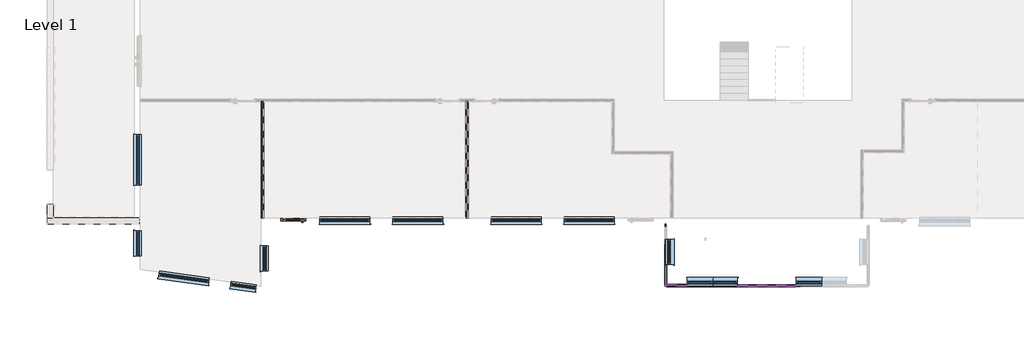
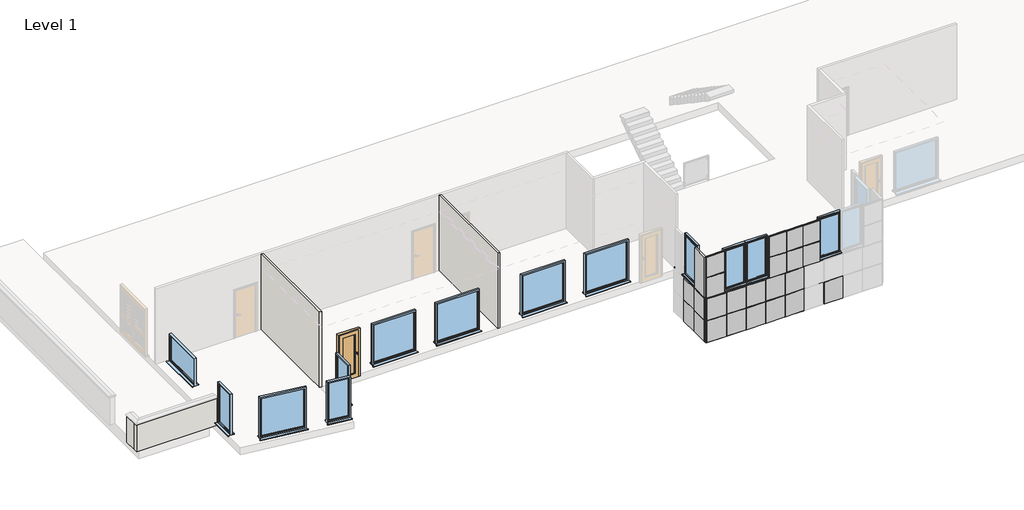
# One storey, part 1 of 10: 66 members, 24 plates, 13 windows, 4 walls, 1 door.
"""IFC4 building model written with IfcOpenShell, lengths in millimetres."""

from ifc_helpers import new_model, si_unit, frame, origin, place, context, project, spatial, polyline, outline, extrude, faceted_brep, transform, mapped, element, save
from components import doors_extsgl_1_910x2110mm_628282a2, rectangular_mullion_25x25mm_b4c38ae9, rectangular_mullion_25x25mm_5996006d, rectangular_mullion_25x25mm_003a9669, rectangular_mullion_25x25mm_920d8240, rectangular_mullion_25x25mm_7ee1a1d8, rectangular_mullion_25x25mm_82e2e498, rectangular_mullion_25x25mm_e35c5382, rectangular_mullion_25x25mm_6d395d07, rectangular_mullion_25x25mm_ba48c8dc, rectangular_mullion_25x25mm_5747d3e9, rectangular_mullion_25x25mm_b4b9a9ee, rectangular_mullion_25x25mm_675738ca, rectangular_mullion_25x25mm_1daffa3c, rectangular_mullion_25x25mm_6c57a8fc, rectangular_mullion_25x25mm_2d4ba261, rectangular_mullion_25x25mm_22961775, rectangular_mullion_25x25mm_fa73f4b8, rectangular_mullion_25x25mm_8c50469f, rectangular_mullion_25x25mm_42a5222e, rectangular_mullion_25x25mm_6f7df1f0, rectangular_mullion_25x25mm_822b7fe3, rectangular_mullion_25x25mm_ea8cc668, curtain_panels_solid_solid_panel_green_16f00973, curtain_panels_solid_solid_panel_green_053d9300, curtain_panels_solid_solid_panel_green_873f3444, curtain_panels_solid_solid_panel_green_c27fb083, curtain_panels_solid_solid_panel_green_c3e145d3, windows_sgl_plain_1810x1210mm_bf86ad2f, windows_sgl_plain_1810x1810mm_5434ce38, windows_sgl_plain_1810x1810mm_11d9b991, windows_sgl_plain_910x1810mm_bd75558e, windows_sgl_plain_910x1810mm_de3ea6c8, windows_sgl_plain_910x1810mm_eaa5caaf, windows_sgl_plain_910x1810mm_c05862ca

model = new_model("IFC4")

# Units and contexts
model_context = context("Model", 3, world=origin())
ifc_project = project(units=[si_unit("LENGTHUNIT", "METRE", prefix="MILLI")], contexts=[model_context])

# Site, building, storey
site = spatial("IfcSite", under=ifc_project)
building = spatial("IfcBuilding", under=site)
storey = spatial("IfcBuildingStorey", under=building, Name="Level 1", Elevation=3750.0)

# Door
placement = place(None, origin())
doors_extsgl_1_910x2110mm_shape = doors_extsgl_1_910x2110mm_628282a2(model_context)
element("IfcDoor", 1, ObjectType="Doors_ExtSgl_1 : 910x2110mm", at=placement, inside=storey, context=model_context, shape_type="MappedRepresentation", body=[
    mapped(doors_extsgl_1_910x2110mm_shape, transform((4105.7942367, -3367.5053409, 3750.0), x_axis=(-1.0, 0.0, 0.0), y_axis=(0.0, -1.0, 0.0), z_axis=(0.0, 0.0, 1.0))),
])

# Members
rectangular_mullion_25x25mm_shape = rectangular_mullion_25x25mm_b4c38ae9(model_context)
element("IfcMember", 2, ObjectType="Rectangular Mullion : 25x25mm", at=placement, inside=storey, context=model_context, shape_type="MappedRepresentation", body=[
    mapped(rectangular_mullion_25x25mm_shape, transform((17573.2942367, -4210.005341, 2135.0), x_axis=(0.0, -1.0, 0.0), y_axis=(-1.0, 0.0, 0.0), z_axis=(0.0, 0.0, -1.0))),
])
element("IfcMember", 3, ObjectType="Rectangular Mullion : 25x25mm", at=placement, inside=storey, context=model_context, shape_type="MappedRepresentation", body=[
    mapped(rectangular_mullion_25x25mm_shape, transform((17573.2942367, -4957.5053408, 2135.0), x_axis=(0.0, -1.0, 0.0), y_axis=(-1.0, 0.0, 0.0), z_axis=(0.0, 0.0, -1.0))),
])
element("IfcMember", 4, ObjectType="Rectangular Mullion : 25x25mm", at=placement, inside=storey, context=model_context, shape_type="MappedRepresentation", body=[
    mapped(rectangular_mullion_25x25mm_shape, transform((17573.2942367, -4210.005341, 3080.0), x_axis=(0.0, -1.0, 0.0), y_axis=(-1.0, 0.0, 0.0), z_axis=(0.0, 0.0, -1.0))),
])
element("IfcMember", 5, ObjectType="Rectangular Mullion : 25x25mm", at=placement, inside=storey, context=model_context, shape_type="MappedRepresentation", body=[
    mapped(rectangular_mullion_25x25mm_shape, transform((17573.2942367, -4957.5053408, 3080.0), x_axis=(0.0, -1.0, 0.0), y_axis=(-1.0, 0.0, 0.0), z_axis=(0.0, 0.0, -1.0))),
])
rectangular_mullion_25x25mm_2_shape = rectangular_mullion_25x25mm_5996006d(model_context)
element("IfcMember", 6, ObjectType="Rectangular Mullion : 25x25mm", at=placement, inside=storey, context=model_context, shape_type="MappedRepresentation", body=[
    mapped(rectangular_mullion_25x25mm_2_shape, transform((17573.2942367, -5717.5053409, 2135.0), x_axis=(0.0, -1.0, 0.0), y_axis=(-1.0, 0.0, 0.0), z_axis=(0.0, 0.0, -1.0))),
])
element("IfcMember", 7, ObjectType="Rectangular Mullion : 25x25mm", at=placement, inside=storey, context=model_context, shape_type="MappedRepresentation", body=[
    mapped(rectangular_mullion_25x25mm_2_shape, transform((17573.2942367, -5717.5053409, 3080.0), x_axis=(0.0, -1.0, 0.0), y_axis=(-1.0, 0.0, 0.0), z_axis=(0.0, 0.0, -1.0))),
])
rectangular_mullion_25x25mm_3_shape = rectangular_mullion_25x25mm_003a9669(model_context)
element("IfcMember", 8, ObjectType="Rectangular Mullion : 25x25mm", at=placement, inside=storey, context=model_context, shape_type="MappedRepresentation", body=[
    mapped(rectangular_mullion_25x25mm_3_shape, transform((17573.2942367, -4210.005341, 4050.0), x_axis=(0.0, 0.0, 1.0), y_axis=(-1.0, 0.0, 0.0), z_axis=(0.0, -1.0, 0.0))),
])
rectangular_mullion_25x25mm_4_shape = rectangular_mullion_25x25mm_920d8240(model_context)
element("IfcMember", 9, ObjectType="Rectangular Mullion : 25x25mm", at=placement, inside=storey, context=model_context, shape_type="MappedRepresentation", body=[
    mapped(rectangular_mullion_25x25mm_4_shape, transform((17573.2942367, -4957.5053408, 4050.0), x_axis=(0.0, 0.0, 1.0), y_axis=(-1.0, 0.0, 0.0), z_axis=(0.0, -1.0, 0.0))),
])
element("IfcMember", 10, ObjectType="Rectangular Mullion : 25x25mm", at=placement, inside=storey, context=model_context, shape_type="MappedRepresentation", body=[
    mapped(rectangular_mullion_25x25mm_4_shape, transform((17573.2942367, -4210.005341, 2110.0), x_axis=(0.0, 0.0, -1.0), y_axis=(-1.0, 0.0, 0.0), z_axis=(0.0, 1.0, 0.0))),
])
rectangular_mullion_25x25mm_5_shape = rectangular_mullion_25x25mm_7ee1a1d8(model_context)
element("IfcMember", 11, ObjectType="Rectangular Mullion : 25x25mm", at=placement, inside=storey, context=model_context, shape_type="MappedRepresentation", body=[
    mapped(rectangular_mullion_25x25mm_5_shape, transform((17573.2942367, -4957.5053408, 2110.0), x_axis=(0.0, 0.0, -1.0), y_axis=(-1.0, 0.0, 0.0), z_axis=(0.0, 1.0, 0.0))),
])
rectangular_mullion_25x25mm_6_shape = rectangular_mullion_25x25mm_82e2e498(model_context)
element("IfcMember", 12, ObjectType="Rectangular Mullion : 25x25mm", at=placement, inside=storey, context=model_context, shape_type="MappedRepresentation", body=[
    mapped(rectangular_mullion_25x25mm_6_shape, transform((17573.2942367, -4197.505341, 3080.0), x_axis=(0.0, 0.0, 1.0), y_axis=(-1.0, 0.0, 0.0), z_axis=(0.0, -1.0, 0.0))),
])
rectangular_mullion_25x25mm_7_shape = rectangular_mullion_25x25mm_e35c5382(model_context)
element("IfcMember", 13, ObjectType="Rectangular Mullion : 25x25mm", at=placement, inside=storey, context=model_context, shape_type="MappedRepresentation", body=[
    mapped(rectangular_mullion_25x25mm_7_shape, transform((17573.2942367, -4945.0053408, 3080.0), x_axis=(0.0, 0.0, 1.0), y_axis=(-1.0, 0.0, 0.0), z_axis=(0.0, -1.0, 0.0))),
])
element("IfcMember", 14, ObjectType="Rectangular Mullion : 25x25mm", at=placement, inside=storey, context=model_context, shape_type="MappedRepresentation", body=[
    mapped(rectangular_mullion_25x25mm_7_shape, transform((17573.2942367, -5692.5053409, 3080.0), x_axis=(0.0, 0.0, 1.0), y_axis=(-1.0, 0.0, 0.0), z_axis=(0.0, -1.0, 0.0))),
])
rectangular_mullion_25x25mm_8_shape = rectangular_mullion_25x25mm_6d395d07(model_context)
element("IfcMember", 15, ObjectType="Rectangular Mullion : 25x25mm", at=placement, inside=storey, context=model_context, shape_type="MappedRepresentation", body=[
    mapped(rectangular_mullion_25x25mm_8_shape, transform((20173.2942367, -5717.5053409, 5860.0), x_axis=(0.0, 0.0, 1.0), y_axis=(0.0, 1.0, 0.0), z_axis=(-1.0, 0.0, 0.0))),
])
element("IfcMember", 16, ObjectType="Rectangular Mullion : 25x25mm", at=placement, inside=storey, context=model_context, shape_type="MappedRepresentation", body=[
    mapped(rectangular_mullion_25x25mm_8_shape, transform((22288.2942367, -5717.5053409, 4025.0), x_axis=(0.0, 0.0, -1.0), y_axis=(0.0, 1.0, 0.0), z_axis=(1.0, 0.0, 0.0))),
])
element("IfcMember", 17, ObjectType="Rectangular Mullion : 25x25mm", at=placement, inside=storey, context=model_context, shape_type="MappedRepresentation", body=[
    mapped(rectangular_mullion_25x25mm_8_shape, transform((21579.1275699, -5717.5053409, 5860.0), x_axis=(0.0, 0.0, 1.0), y_axis=(0.0, 1.0, 0.0), z_axis=(-1.0, 0.0, 0.0))),
])
rectangular_mullion_25x25mm_9_shape = rectangular_mullion_25x25mm_ba48c8dc(model_context)
element("IfcMember", 18, ObjectType="Rectangular Mullion : 25x25mm", at=placement, inside=storey, context=model_context, shape_type="MappedRepresentation", body=[
    mapped(rectangular_mullion_25x25mm_9_shape, transform((20882.4609034, -5717.5053409, 5860.0), x_axis=(0.0, 0.0, 1.0), y_axis=(0.0, 1.0, 0.0), z_axis=(-1.0, 0.0, 0.0))),
])
element("IfcMember", 19, ObjectType="Rectangular Mullion : 25x25mm", at=placement, inside=storey, context=model_context, shape_type="MappedRepresentation", body=[
    mapped(rectangular_mullion_25x25mm_9_shape, transform((21579.1275699, -5717.5053409, 4025.0), x_axis=(0.0, 0.0, -1.0), y_axis=(0.0, 1.0, 0.0), z_axis=(1.0, 0.0, 0.0))),
])
element("IfcMember", 20, ObjectType="Rectangular Mullion : 25x25mm", at=placement, inside=storey, context=model_context, shape_type="MappedRepresentation", body=[
    mapped(rectangular_mullion_25x25mm_8_shape, transform((20882.4609034, -5717.5053409, 4025.0), x_axis=(0.0, 0.0, -1.0), y_axis=(0.0, 1.0, 0.0), z_axis=(1.0, 0.0, 0.0))),
])
rectangular_mullion_25x25mm_10_shape = rectangular_mullion_25x25mm_5747d3e9(model_context)
element("IfcMember", 21, ObjectType="Rectangular Mullion : 25x25mm", at=placement, inside=storey, context=model_context, shape_type="MappedRepresentation", body=[
    mapped(rectangular_mullion_25x25mm_10_shape, transform((21579.1275699, -5717.5053409, 4050.0), x_axis=(-1.0, 0.0, 0.0), y_axis=(0.0, 1.0, 0.0), z_axis=(0.0, 0.0, -1.0))),
])
element("IfcMember", 22, ObjectType="Rectangular Mullion : 25x25mm", at=placement, inside=storey, context=model_context, shape_type="MappedRepresentation", body=[
    mapped(rectangular_mullion_25x25mm_10_shape, transform((20882.4609034, -5717.5053409, 4050.0), x_axis=(-1.0, 0.0, 0.0), y_axis=(0.0, 1.0, 0.0), z_axis=(0.0, 0.0, -1.0))),
])
element("IfcMember", 23, ObjectType="Rectangular Mullion : 25x25mm", at=placement, inside=storey, context=model_context, shape_type="MappedRepresentation", body=[
    mapped(rectangular_mullion_25x25mm_10_shape, transform((21579.1275699, -5717.5053409, 4942.5), x_axis=(-1.0, 0.0, 0.0), y_axis=(0.0, 1.0, 0.0), z_axis=(0.0, 0.0, -1.0))),
])
element("IfcMember", 24, ObjectType="Rectangular Mullion : 25x25mm", at=placement, inside=storey, context=model_context, shape_type="MappedRepresentation", body=[
    mapped(rectangular_mullion_25x25mm_10_shape, transform((20882.4609034, -5717.5053409, 4942.5), x_axis=(-1.0, 0.0, 0.0), y_axis=(0.0, 1.0, 0.0), z_axis=(0.0, 0.0, -1.0))),
])
rectangular_mullion_25x25mm_11_shape = rectangular_mullion_25x25mm_b4b9a9ee(model_context)
element("IfcMember", 25, ObjectType="Rectangular Mullion : 25x25mm", at=placement, inside=storey, context=model_context, shape_type="MappedRepresentation", body=[
    mapped(rectangular_mullion_25x25mm_11_shape, transform((21591.6275699, -5717.5053409, 4942.5), x_axis=(0.0, 0.0, 1.0), y_axis=(0.0, 1.0, 0.0), z_axis=(-1.0, 0.0, 0.0))),
])
element("IfcMember", 26, ObjectType="Rectangular Mullion : 25x25mm", at=placement, inside=storey, context=model_context, shape_type="MappedRepresentation", body=[
    mapped(rectangular_mullion_25x25mm_11_shape, transform((20894.9609034, -5717.5053409, 4942.5), x_axis=(0.0, 0.0, 1.0), y_axis=(0.0, 1.0, 0.0), z_axis=(-1.0, 0.0, 0.0))),
])
element("IfcMember", 27, ObjectType="Rectangular Mullion : 25x25mm", at=placement, inside=storey, context=model_context, shape_type="MappedRepresentation", body=[
    mapped(rectangular_mullion_25x25mm_11_shape, transform((20198.2942367, -5717.5053409, 4942.5), x_axis=(0.0, 0.0, 1.0), y_axis=(0.0, 1.0, 0.0), z_axis=(-1.0, 0.0, 0.0))),
])
rectangular_mullion_25x25mm_12_shape = rectangular_mullion_25x25mm_675738ca(model_context)
element("IfcMember", 28, ObjectType="Rectangular Mullion : 25x25mm", at=placement, inside=storey, context=model_context, shape_type="MappedRepresentation", body=[
    mapped(rectangular_mullion_25x25mm_12_shape, transform((20173.2942367, -5717.5053409, 4050.0), x_axis=(-1.0, 0.0, 0.0), y_axis=(0.0, 1.0, 0.0), z_axis=(0.0, 0.0, -1.0))),
])
element("IfcMember", 29, ObjectType="Rectangular Mullion : 25x25mm", at=placement, inside=storey, context=model_context, shape_type="MappedRepresentation", body=[
    mapped(rectangular_mullion_25x25mm_12_shape, transform((22288.2942367, -5717.5053409, 5835.0), x_axis=(1.0, 0.0, 0.0), y_axis=(0.0, 1.0, 0.0), z_axis=(0.0, 0.0, 1.0))),
])
element("IfcMember", 30, ObjectType="Rectangular Mullion : 25x25mm", at=placement, inside=storey, context=model_context, shape_type="MappedRepresentation", body=[
    mapped(rectangular_mullion_25x25mm_12_shape, transform((20173.2942367, -5717.5053409, 4942.5), x_axis=(-1.0, 0.0, 0.0), y_axis=(0.0, 1.0, 0.0), z_axis=(0.0, 0.0, -1.0))),
])
rectangular_mullion_25x25mm_13_shape = rectangular_mullion_25x25mm_1daffa3c(model_context)
element("IfcMember", 31, ObjectType="Rectangular Mullion : 25x25mm", at=placement, inside=storey, context=model_context, shape_type="MappedRepresentation", body=[
    mapped(rectangular_mullion_25x25mm_13_shape, transform((17573.2942367, -5717.5053409, 5860.0), x_axis=(0.0, 0.0, 1.0), y_axis=(0.0, 1.0, 0.0), z_axis=(-1.0, 0.0, 0.0))),
])
element("IfcMember", 32, ObjectType="Rectangular Mullion : 25x25mm", at=placement, inside=storey, context=model_context, shape_type="MappedRepresentation", body=[
    mapped(rectangular_mullion_25x25mm_13_shape, transform((18348.2942367, -5717.5053409, 4025.0), x_axis=(0.0, 0.0, -1.0), y_axis=(0.0, 1.0, 0.0), z_axis=(1.0, 0.0, 0.0))),
])
rectangular_mullion_25x25mm_14_shape = rectangular_mullion_25x25mm_6c57a8fc(model_context)
element("IfcMember", 33, ObjectType="Rectangular Mullion : 25x25mm", at=placement, inside=storey, context=model_context, shape_type="MappedRepresentation", body=[
    mapped(rectangular_mullion_25x25mm_14_shape, transform((17598.2942367, -5717.5053409, 4942.5), x_axis=(0.0, 0.0, 1.0), y_axis=(0.0, 1.0, 0.0), z_axis=(-1.0, 0.0, 0.0))),
])
rectangular_mullion_25x25mm_15_shape = rectangular_mullion_25x25mm_2d4ba261(model_context)
element("IfcMember", 34, ObjectType="Rectangular Mullion : 25x25mm", at=placement, inside=storey, context=model_context, shape_type="MappedRepresentation", body=[
    mapped(rectangular_mullion_25x25mm_15_shape, transform((17573.2942367, -5717.5053409, 4050.0), x_axis=(-1.0, 0.0, 0.0), y_axis=(0.0, 1.0, 0.0), z_axis=(0.0, 0.0, -1.0))),
])
element("IfcMember", 35, ObjectType="Rectangular Mullion : 25x25mm", at=placement, inside=storey, context=model_context, shape_type="MappedRepresentation", body=[
    mapped(rectangular_mullion_25x25mm_15_shape, transform((18348.2942367, -5717.5053409, 5835.0), x_axis=(1.0, 0.0, 0.0), y_axis=(0.0, 1.0, 0.0), z_axis=(0.0, 0.0, 1.0))),
])
element("IfcMember", 36, ObjectType="Rectangular Mullion : 25x25mm", at=placement, inside=storey, context=model_context, shape_type="MappedRepresentation", body=[
    mapped(rectangular_mullion_25x25mm_15_shape, transform((17573.2942367, -5717.5053409, 4942.5), x_axis=(-1.0, 0.0, 0.0), y_axis=(0.0, 1.0, 0.0), z_axis=(0.0, 0.0, -1.0))),
])
element("IfcMember", 37, ObjectType="Rectangular Mullion : 25x25mm", at=placement, inside=storey, context=model_context, shape_type="MappedRepresentation", body=[
    mapped(rectangular_mullion_25x25mm_15_shape, transform((18348.2942367, -5717.5053409, 4942.5), x_axis=(1.0, 0.0, 0.0), y_axis=(0.0, 1.0, 0.0), z_axis=(0.0, 0.0, 1.0))),
])
rectangular_mullion_25x25mm_16_shape = rectangular_mullion_25x25mm_22961775(model_context)
element("IfcMember", 38, ObjectType="Rectangular Mullion : 25x25mm", at=placement, inside=storey, context=model_context, shape_type="MappedRepresentation", body=[
    mapped(rectangular_mullion_25x25mm_16_shape, transform((21627.4609033, -5717.5053409, 2110.0), x_axis=(-1.0, 0.0, 0.0), y_axis=(0.0, 1.0, 0.0), z_axis=(0.0, 0.0, -1.0))),
])
element("IfcMember", 39, ObjectType="Rectangular Mullion : 25x25mm", at=placement, inside=storey, context=model_context, shape_type="MappedRepresentation", body=[
    mapped(rectangular_mullion_25x25mm_16_shape, transform((20819.12757, -5717.5053409, 2110.0), x_axis=(-1.0, 0.0, 0.0), y_axis=(0.0, 1.0, 0.0), z_axis=(0.0, 0.0, -1.0))),
])
element("IfcMember", 40, ObjectType="Rectangular Mullion : 25x25mm", at=placement, inside=storey, context=model_context, shape_type="MappedRepresentation", body=[
    mapped(rectangular_mullion_25x25mm_16_shape, transform((20010.7942368, -5717.5053409, 2110.0), x_axis=(-1.0, 0.0, 0.0), y_axis=(0.0, 1.0, 0.0), z_axis=(0.0, 0.0, -1.0))),
])
element("IfcMember", 41, ObjectType="Rectangular Mullion : 25x25mm", at=placement, inside=storey, context=model_context, shape_type="MappedRepresentation", body=[
    mapped(rectangular_mullion_25x25mm_16_shape, transform((19202.4609035, -5717.5053409, 2110.0), x_axis=(-1.0, 0.0, 0.0), y_axis=(0.0, 1.0, 0.0), z_axis=(0.0, 0.0, -1.0))),
])
element("IfcMember", 42, ObjectType="Rectangular Mullion : 25x25mm", at=placement, inside=storey, context=model_context, shape_type="MappedRepresentation", body=[
    mapped(rectangular_mullion_25x25mm_16_shape, transform((18394.1275702, -5717.5053409, 2110.0), x_axis=(-1.0, 0.0, 0.0), y_axis=(0.0, 1.0, 0.0), z_axis=(0.0, 0.0, -1.0))),
])
element("IfcMember", 43, ObjectType="Rectangular Mullion : 25x25mm", at=placement, inside=storey, context=model_context, shape_type="MappedRepresentation", body=[
    mapped(rectangular_mullion_25x25mm_16_shape, transform((21627.4609033, -5717.5053409, 3067.5), x_axis=(-1.0, 0.0, 0.0), y_axis=(0.0, 1.0, 0.0), z_axis=(0.0, 0.0, -1.0))),
])
element("IfcMember", 44, ObjectType="Rectangular Mullion : 25x25mm", at=placement, inside=storey, context=model_context, shape_type="MappedRepresentation", body=[
    mapped(rectangular_mullion_25x25mm_16_shape, transform((20819.12757, -5717.5053409, 3067.5), x_axis=(-1.0, 0.0, 0.0), y_axis=(0.0, 1.0, 0.0), z_axis=(0.0, 0.0, -1.0))),
])
element("IfcMember", 45, ObjectType="Rectangular Mullion : 25x25mm", at=placement, inside=storey, context=model_context, shape_type="MappedRepresentation", body=[
    mapped(rectangular_mullion_25x25mm_16_shape, transform((20010.7942368, -5717.5053409, 3067.5), x_axis=(-1.0, 0.0, 0.0), y_axis=(0.0, 1.0, 0.0), z_axis=(0.0, 0.0, -1.0))),
])
element("IfcMember", 46, ObjectType="Rectangular Mullion : 25x25mm", at=placement, inside=storey, context=model_context, shape_type="MappedRepresentation", body=[
    mapped(rectangular_mullion_25x25mm_16_shape, transform((19202.4609035, -5717.5053409, 3067.5), x_axis=(-1.0, 0.0, 0.0), y_axis=(0.0, 1.0, 0.0), z_axis=(0.0, 0.0, -1.0))),
])
element("IfcMember", 47, ObjectType="Rectangular Mullion : 25x25mm", at=placement, inside=storey, context=model_context, shape_type="MappedRepresentation", body=[
    mapped(rectangular_mullion_25x25mm_16_shape, transform((18394.1275702, -5717.5053409, 3067.5), x_axis=(-1.0, 0.0, 0.0), y_axis=(0.0, 1.0, 0.0), z_axis=(0.0, 0.0, -1.0))),
])
rectangular_mullion_25x25mm_17_shape = rectangular_mullion_25x25mm_fa73f4b8(model_context)
element("IfcMember", 48, ObjectType="Rectangular Mullion : 25x25mm", at=placement, inside=storey, context=model_context, shape_type="MappedRepresentation", body=[
    mapped(rectangular_mullion_25x25mm_17_shape, transform((17573.2942367, -5717.5053409, 2110.0), x_axis=(-1.0, 0.0, 0.0), y_axis=(0.0, 1.0, 0.0), z_axis=(0.0, 0.0, -1.0))),
])
element("IfcMember", 49, ObjectType="Rectangular Mullion : 25x25mm", at=placement, inside=storey, context=model_context, shape_type="MappedRepresentation", body=[
    mapped(rectangular_mullion_25x25mm_17_shape, transform((17573.2942367, -5717.5053409, 3067.5), x_axis=(-1.0, 0.0, 0.0), y_axis=(0.0, 1.0, 0.0), z_axis=(0.0, 0.0, -1.0))),
])
rectangular_mullion_25x25mm_18_shape = rectangular_mullion_25x25mm_8c50469f(model_context)
element("IfcMember", 50, ObjectType="Rectangular Mullion : 25x25mm", at=placement, inside=storey, context=model_context, shape_type="MappedRepresentation", body=[
    mapped(rectangular_mullion_25x25mm_18_shape, transform((21627.4609033, -5717.5053409, 4050.0), x_axis=(0.0, 0.0, 1.0), y_axis=(0.0, 1.0, 0.0), z_axis=(-1.0, 0.0, 0.0))),
])
element("IfcMember", 51, ObjectType="Rectangular Mullion : 25x25mm", at=placement, inside=storey, context=model_context, shape_type="MappedRepresentation", body=[
    mapped(rectangular_mullion_25x25mm_18_shape, transform((20819.12757, -5717.5053409, 4050.0), x_axis=(0.0, 0.0, 1.0), y_axis=(0.0, 1.0, 0.0), z_axis=(-1.0, 0.0, 0.0))),
])
element("IfcMember", 52, ObjectType="Rectangular Mullion : 25x25mm", at=placement, inside=storey, context=model_context, shape_type="MappedRepresentation", body=[
    mapped(rectangular_mullion_25x25mm_18_shape, transform((20010.7942368, -5717.5053409, 4050.0), x_axis=(0.0, 0.0, 1.0), y_axis=(0.0, 1.0, 0.0), z_axis=(-1.0, 0.0, 0.0))),
])
element("IfcMember", 53, ObjectType="Rectangular Mullion : 25x25mm", at=placement, inside=storey, context=model_context, shape_type="MappedRepresentation", body=[
    mapped(rectangular_mullion_25x25mm_18_shape, transform((19202.4609035, -5717.5053409, 4050.0), x_axis=(0.0, 0.0, 1.0), y_axis=(0.0, 1.0, 0.0), z_axis=(-1.0, 0.0, 0.0))),
])
element("IfcMember", 54, ObjectType="Rectangular Mullion : 25x25mm", at=placement, inside=storey, context=model_context, shape_type="MappedRepresentation", body=[
    mapped(rectangular_mullion_25x25mm_18_shape, transform((18394.1275702, -5717.5053409, 4050.0), x_axis=(0.0, 0.0, 1.0), y_axis=(0.0, 1.0, 0.0), z_axis=(-1.0, 0.0, 0.0))),
])
element("IfcMember", 55, ObjectType="Rectangular Mullion : 25x25mm", at=placement, inside=storey, context=model_context, shape_type="MappedRepresentation", body=[
    mapped(rectangular_mullion_25x25mm_18_shape, transform((21627.4609033, -5717.5053409, 2085.0), x_axis=(0.0, 0.0, -1.0), y_axis=(0.0, 1.0, 0.0), z_axis=(1.0, 0.0, 0.0))),
])
element("IfcMember", 56, ObjectType="Rectangular Mullion : 25x25mm", at=placement, inside=storey, context=model_context, shape_type="MappedRepresentation", body=[
    mapped(rectangular_mullion_25x25mm_18_shape, transform((20819.12757, -5717.5053409, 2085.0), x_axis=(0.0, 0.0, -1.0), y_axis=(0.0, 1.0, 0.0), z_axis=(1.0, 0.0, 0.0))),
])
element("IfcMember", 57, ObjectType="Rectangular Mullion : 25x25mm", at=placement, inside=storey, context=model_context, shape_type="MappedRepresentation", body=[
    mapped(rectangular_mullion_25x25mm_18_shape, transform((20010.7942368, -5717.5053409, 2085.0), x_axis=(0.0, 0.0, -1.0), y_axis=(0.0, 1.0, 0.0), z_axis=(1.0, 0.0, 0.0))),
])
element("IfcMember", 58, ObjectType="Rectangular Mullion : 25x25mm", at=placement, inside=storey, context=model_context, shape_type="MappedRepresentation", body=[
    mapped(rectangular_mullion_25x25mm_18_shape, transform((19202.4609035, -5717.5053409, 2085.0), x_axis=(0.0, 0.0, -1.0), y_axis=(0.0, 1.0, 0.0), z_axis=(1.0, 0.0, 0.0))),
])
rectangular_mullion_25x25mm_19_shape = rectangular_mullion_25x25mm_42a5222e(model_context)
element("IfcMember", 59, ObjectType="Rectangular Mullion : 25x25mm", at=placement, inside=storey, context=model_context, shape_type="MappedRepresentation", body=[
    mapped(rectangular_mullion_25x25mm_19_shape, transform((21639.9609033, -5717.5053409, 3067.5), x_axis=(0.0, 0.0, 1.0), y_axis=(0.0, 1.0, 0.0), z_axis=(-1.0, 0.0, 0.0))),
])
element("IfcMember", 60, ObjectType="Rectangular Mullion : 25x25mm", at=placement, inside=storey, context=model_context, shape_type="MappedRepresentation", body=[
    mapped(rectangular_mullion_25x25mm_19_shape, transform((20831.62757, -5717.5053409, 3067.5), x_axis=(0.0, 0.0, 1.0), y_axis=(0.0, 1.0, 0.0), z_axis=(-1.0, 0.0, 0.0))),
])
element("IfcMember", 61, ObjectType="Rectangular Mullion : 25x25mm", at=placement, inside=storey, context=model_context, shape_type="MappedRepresentation", body=[
    mapped(rectangular_mullion_25x25mm_19_shape, transform((20023.2942368, -5717.5053409, 3067.5), x_axis=(0.0, 0.0, 1.0), y_axis=(0.0, 1.0, 0.0), z_axis=(-1.0, 0.0, 0.0))),
])
element("IfcMember", 62, ObjectType="Rectangular Mullion : 25x25mm", at=placement, inside=storey, context=model_context, shape_type="MappedRepresentation", body=[
    mapped(rectangular_mullion_25x25mm_19_shape, transform((19214.9609035, -5717.5053409, 3067.5), x_axis=(0.0, 0.0, 1.0), y_axis=(0.0, 1.0, 0.0), z_axis=(-1.0, 0.0, 0.0))),
])
element("IfcMember", 63, ObjectType="Rectangular Mullion : 25x25mm", at=placement, inside=storey, context=model_context, shape_type="MappedRepresentation", body=[
    mapped(rectangular_mullion_25x25mm_19_shape, transform((18406.6275702, -5717.5053409, 3067.5), x_axis=(0.0, 0.0, 1.0), y_axis=(0.0, 1.0, 0.0), z_axis=(-1.0, 0.0, 0.0))),
])
element("IfcMember", 64, ObjectType="Rectangular Mullion : 25x25mm", at=placement, inside=storey, context=model_context, shape_type="MappedRepresentation", body=[
    mapped(rectangular_mullion_25x25mm_19_shape, transform((17598.2942367, -5717.5053409, 3067.5), x_axis=(0.0, 0.0, 1.0), y_axis=(0.0, 1.0, 0.0), z_axis=(-1.0, 0.0, 0.0))),
])
rectangular_mullion_25x25mm_20_shape = rectangular_mullion_25x25mm_6f7df1f0(model_context)
element("IfcMember", 65, ObjectType="Rectangular Mullion : 25x25mm", at=placement, inside=storey, context=model_context, shape_type="MappedRepresentation", body=[
    mapped(rectangular_mullion_25x25mm_20_shape, transform((18394.1275702, -5717.5053409, 2085.0), x_axis=(0.0, 0.0, -1.0), y_axis=(0.0, 1.0, 0.0), z_axis=(1.0, 0.0, 0.0))),
])
rectangular_mullion_25x25mm_21_shape = rectangular_mullion_25x25mm_822b7fe3(model_context)
element("IfcMember", 66, ObjectType="Rectangular Mullion : 25x25mm", at=placement, inside=storey, context=model_context, shape_type="MappedRepresentation", body=[
    mapped(rectangular_mullion_25x25mm_21_shape, transform((17573.2942367, -5717.5053409, 4050.0), x_axis=(0.0, 0.0, 1.0), y_axis=(-1.0, 0.0, 0.0), z_axis=(0.0, -1.0, 0.0))),
])
rectangular_mullion_25x25mm_22_shape = rectangular_mullion_25x25mm_ea8cc668(model_context)
element("IfcMember", 67, ObjectType="Rectangular Mullion : 25x25mm", at=placement, inside=storey, context=model_context, shape_type="MappedRepresentation", body=[
    mapped(rectangular_mullion_25x25mm_22_shape, transform((17573.2942367, -5717.5053409, 4050.0), x_axis=(0.0, 0.0, 1.0), y_axis=(0.0, 1.0, 0.0), z_axis=(-1.0, 0.0, 0.0))),
])

# Plates
curtain_panels_solid_solid_panel_green_shape = curtain_panels_solid_solid_panel_green_16f00973(model_context)
element("IfcPlate", 68, ObjectType="Curtain_Panels_Solid : Solid_Panel_Green", at=placement, inside=storey, context=model_context, shape_type="MappedRepresentation", body=[
    mapped(curtain_panels_solid_solid_panel_green_shape, transform((17573.2942367, -5337.5053409, 4075.0), x_axis=(0.0, -1.0, 0.0), y_axis=(1.0, 0.0, 0.0), z_axis=(0.0, 0.0, 1.0))),
])
curtain_panels_solid_solid_panel_green_2_shape = curtain_panels_solid_solid_panel_green_053d9300(model_context)
element("IfcPlate", 69, ObjectType="Curtain_Panels_Solid : Solid_Panel_Green", at=placement, inside=storey, context=model_context, shape_type="MappedRepresentation", body=[
    mapped(curtain_panels_solid_solid_panel_green_2_shape, transform((17573.2942367, -4583.7553409, 2135.0), x_axis=(0.0, -1.0, 0.0), y_axis=(1.0, 0.0, 0.0), z_axis=(0.0, 0.0, 1.0))),
])
element("IfcPlate", 70, ObjectType="Curtain_Panels_Solid : Solid_Panel_Green", at=placement, inside=storey, context=model_context, shape_type="MappedRepresentation", body=[
    mapped(curtain_panels_solid_solid_panel_green_2_shape, transform((17573.2942367, -5331.2553408, 2135.0), x_axis=(0.0, -1.0, 0.0), y_axis=(1.0, 0.0, 0.0), z_axis=(0.0, 0.0, 1.0))),
])
element("IfcPlate", 71, ObjectType="Curtain_Panels_Solid : Solid_Panel_Green", at=placement, inside=storey, context=model_context, shape_type="MappedRepresentation", body=[
    mapped(curtain_panels_solid_solid_panel_green_2_shape, transform((17573.2942367, -4583.7553409, 3092.5), x_axis=(0.0, -1.0, 0.0), y_axis=(1.0, 0.0, 0.0), z_axis=(0.0, 0.0, 1.0))),
])
element("IfcPlate", 72, ObjectType="Curtain_Panels_Solid : Solid_Panel_Green", at=placement, inside=storey, context=model_context, shape_type="MappedRepresentation", body=[
    mapped(curtain_panels_solid_solid_panel_green_2_shape, transform((17573.2942367, -5331.2553408, 3092.5), x_axis=(0.0, -1.0, 0.0), y_axis=(1.0, 0.0, 0.0), z_axis=(0.0, 0.0, 1.0))),
])
curtain_panels_solid_solid_panel_green_3_shape = curtain_panels_solid_solid_panel_green_873f3444(model_context)
element("IfcPlate", 73, ObjectType="Curtain_Panels_Solid : Solid_Panel_Green", at=placement, inside=storey, context=model_context, shape_type="MappedRepresentation", body=[
    mapped(curtain_panels_solid_solid_panel_green_3_shape, transform((21927.4609033, -5717.5053409, 4050.0), x_axis=(-1.0, 0.0, 0.0), y_axis=(0.0, -1.0, 0.0), z_axis=(0.0, 0.0, 1.0))),
])
element("IfcPlate", 74, ObjectType="Curtain_Panels_Solid : Solid_Panel_Green", at=placement, inside=storey, context=model_context, shape_type="MappedRepresentation", body=[
    mapped(curtain_panels_solid_solid_panel_green_3_shape, transform((21230.7942367, -5717.5053409, 4050.0), x_axis=(-1.0, 0.0, 0.0), y_axis=(0.0, -1.0, 0.0), z_axis=(0.0, 0.0, 1.0))),
])
element("IfcPlate", 75, ObjectType="Curtain_Panels_Solid : Solid_Panel_Green", at=placement, inside=storey, context=model_context, shape_type="MappedRepresentation", body=[
    mapped(curtain_panels_solid_solid_panel_green_3_shape, transform((20534.1275701, -5717.5053409, 4050.0), x_axis=(-1.0, 0.0, 0.0), y_axis=(0.0, -1.0, 0.0), z_axis=(0.0, 0.0, 1.0))),
])
element("IfcPlate", 76, ObjectType="Curtain_Panels_Solid : Solid_Panel_Green", at=placement, inside=storey, context=model_context, shape_type="MappedRepresentation", body=[
    mapped(curtain_panels_solid_solid_panel_green_3_shape, transform((21927.4609033, -5717.5053409, 4955.0), x_axis=(-1.0, 0.0, 0.0), y_axis=(0.0, -1.0, 0.0), z_axis=(0.0, 0.0, 1.0))),
])
element("IfcPlate", 77, ObjectType="Curtain_Panels_Solid : Solid_Panel_Green", at=placement, inside=storey, context=model_context, shape_type="MappedRepresentation", body=[
    mapped(curtain_panels_solid_solid_panel_green_3_shape, transform((21230.7942367, -5717.5053409, 4955.0), x_axis=(-1.0, 0.0, 0.0), y_axis=(0.0, -1.0, 0.0), z_axis=(0.0, 0.0, 1.0))),
])
element("IfcPlate", 78, ObjectType="Curtain_Panels_Solid : Solid_Panel_Green", at=placement, inside=storey, context=model_context, shape_type="MappedRepresentation", body=[
    mapped(curtain_panels_solid_solid_panel_green_3_shape, transform((20534.1275701, -5717.5053409, 4955.0), x_axis=(-1.0, 0.0, 0.0), y_axis=(0.0, -1.0, 0.0), z_axis=(0.0, 0.0, 1.0))),
])
curtain_panels_solid_solid_panel_green_4_shape = curtain_panels_solid_solid_panel_green_c27fb083(model_context)
element("IfcPlate", 79, ObjectType="Curtain_Panels_Solid : Solid_Panel_Green", at=placement, inside=storey, context=model_context, shape_type="MappedRepresentation", body=[
    mapped(curtain_panels_solid_solid_panel_green_4_shape, transform((17960.7942367, -5717.5053409, 4050.0), x_axis=(-1.0, 0.0, 0.0), y_axis=(0.0, -1.0, 0.0), z_axis=(0.0, 0.0, 1.0))),
])
element("IfcPlate", 80, ObjectType="Curtain_Panels_Solid : Solid_Panel_Green", at=placement, inside=storey, context=model_context, shape_type="MappedRepresentation", body=[
    mapped(curtain_panels_solid_solid_panel_green_4_shape, transform((17960.7942367, -5717.5053409, 4955.0), x_axis=(-1.0, 0.0, 0.0), y_axis=(0.0, -1.0, 0.0), z_axis=(0.0, 0.0, 1.0))),
])
curtain_panels_solid_solid_panel_green_5_shape = curtain_panels_solid_solid_panel_green_c3e145d3(model_context)
element("IfcPlate", 81, ObjectType="Curtain_Panels_Solid : Solid_Panel_Green", at=placement, inside=storey, context=model_context, shape_type="MappedRepresentation", body=[
    mapped(curtain_panels_solid_solid_panel_green_5_shape, transform((22839.9609032, -5717.5053409, 2110.0), x_axis=(-1.0, 0.0, 0.0), y_axis=(0.0, -1.0, 0.0), z_axis=(0.0, 0.0, 1.0))),
])
element("IfcPlate", 82, ObjectType="Curtain_Panels_Solid : Solid_Panel_Green", at=placement, inside=storey, context=model_context, shape_type="MappedRepresentation", body=[
    mapped(curtain_panels_solid_solid_panel_green_5_shape, transform((21223.2942367, -5717.5053409, 2110.0), x_axis=(-1.0, 0.0, 0.0), y_axis=(0.0, -1.0, 0.0), z_axis=(0.0, 0.0, 1.0))),
])
element("IfcPlate", 83, ObjectType="Curtain_Panels_Solid : Solid_Panel_Green", at=placement, inside=storey, context=model_context, shape_type="MappedRepresentation", body=[
    mapped(curtain_panels_solid_solid_panel_green_5_shape, transform((21223.2942367, -5717.5053409, 3080.0), x_axis=(-1.0, 0.0, 0.0), y_axis=(0.0, -1.0, 0.0), z_axis=(0.0, 0.0, 1.0))),
])
element("IfcPlate", 84, ObjectType="Curtain_Panels_Solid : Solid_Panel_Green", at=placement, inside=storey, context=model_context, shape_type="MappedRepresentation", body=[
    mapped(curtain_panels_solid_solid_panel_green_5_shape, transform((20414.9609034, -5717.5053409, 2110.0), x_axis=(-1.0, 0.0, 0.0), y_axis=(0.0, -1.0, 0.0), z_axis=(0.0, 0.0, 1.0))),
])
element("IfcPlate", 85, ObjectType="Curtain_Panels_Solid : Solid_Panel_Green", at=placement, inside=storey, context=model_context, shape_type="MappedRepresentation", body=[
    mapped(curtain_panels_solid_solid_panel_green_5_shape, transform((20414.9609034, -5717.5053409, 3080.0), x_axis=(-1.0, 0.0, 0.0), y_axis=(0.0, -1.0, 0.0), z_axis=(0.0, 0.0, 1.0))),
])
element("IfcPlate", 86, ObjectType="Curtain_Panels_Solid : Solid_Panel_Green", at=placement, inside=storey, context=model_context, shape_type="MappedRepresentation", body=[
    mapped(curtain_panels_solid_solid_panel_green_5_shape, transform((19606.6275701, -5717.5053409, 2110.0), x_axis=(-1.0, 0.0, 0.0), y_axis=(0.0, -1.0, 0.0), z_axis=(0.0, 0.0, 1.0))),
])
element("IfcPlate", 87, ObjectType="Curtain_Panels_Solid : Solid_Panel_Green", at=placement, inside=storey, context=model_context, shape_type="MappedRepresentation", body=[
    mapped(curtain_panels_solid_solid_panel_green_5_shape, transform((19606.6275701, -5717.5053409, 3080.0), x_axis=(-1.0, 0.0, 0.0), y_axis=(0.0, -1.0, 0.0), z_axis=(0.0, 0.0, 1.0))),
])
element("IfcPlate", 88, ObjectType="Curtain_Panels_Solid : Solid_Panel_Green", at=placement, inside=storey, context=model_context, shape_type="MappedRepresentation", body=[
    mapped(curtain_panels_solid_solid_panel_green_5_shape, transform((18798.2942369, -5717.5053409, 2110.0), x_axis=(-1.0, 0.0, 0.0), y_axis=(0.0, -1.0, 0.0), z_axis=(0.0, 0.0, 1.0))),
])
element("IfcPlate", 89, ObjectType="Curtain_Panels_Solid : Solid_Panel_Green", at=placement, inside=storey, context=model_context, shape_type="MappedRepresentation", body=[
    mapped(curtain_panels_solid_solid_panel_green_5_shape, transform((18798.2942369, -5717.5053409, 3080.0), x_axis=(-1.0, 0.0, 0.0), y_axis=(0.0, -1.0, 0.0), z_axis=(0.0, 0.0, 1.0))),
])
element("IfcPlate", 90, ObjectType="Curtain_Panels_Solid : Solid_Panel_Green", at=placement, inside=storey, context=model_context, shape_type="MappedRepresentation", body=[
    mapped(curtain_panels_solid_solid_panel_green_5_shape, transform((17989.9609035, -5717.5053409, 2110.0), x_axis=(-1.0, 0.0, 0.0), y_axis=(0.0, -1.0, 0.0), z_axis=(0.0, 0.0, 1.0))),
])
element("IfcPlate", 91, ObjectType="Curtain_Panels_Solid : Solid_Panel_Green", at=placement, inside=storey, context=model_context, shape_type="MappedRepresentation", body=[
    mapped(curtain_panels_solid_solid_panel_green_5_shape, transform((17989.9609035, -5717.5053409, 3080.0), x_axis=(-1.0, 0.0, 0.0), y_axis=(0.0, -1.0, 0.0), z_axis=(0.0, 0.0, 1.0))),
])

# Walls
element("IfcWall", 92, ObjectType="Wall-Partn_12P-70MStd-12P", at=placement, inside=storey, context=model_context, shape_type="SweptSolid", body=[
    extrude(outline(polyline([(3030.7942367, 939.9946591), (3030.7942367, -3259.5053409), (2935.7942367, -3259.5053409), (2935.7942367, 939.9946591), (3030.7942367, 939.9946591)])), frame((0.0, 0.0, 3750.0), z_axis=(0.0, 0.0, 1.0), x_axis=(1.0, 0.0, 0.0)), (0.0, 0.0, 1.0), 3315.0),
])
element("IfcWall", 93, ObjectType="Wall-Partn_12P-70MStd-12P", at=placement, inside=storey, context=model_context, shape_type="SweptSolid", body=[
    extrude(outline(polyline([(10430.7942367, 939.9946591), (10430.7942367, -3259.5053409), (10335.7942367, -3259.5053409), (10335.7942367, 939.9946591), (10430.7942367, 939.9946591)])), frame((0.0, 0.0, 3750.0), z_axis=(0.0, 0.0, 1.0), x_axis=(1.0, 0.0, 0.0)), (0.0, 0.0, 1.0), 3315.0),
])
element("IfcWall", 94, ObjectType="Wall-Ext_215Bwk_Coping", at=placement, inside=storey, context=model_context, shape_type="SweptSolid", body=[
    extrude(outline(polyline([(-4569.2057633, -2772.5053409), (-4569.2057633, -3260.0053409), (-4784.2057633, -3260.0053409), (-4784.2057633, -2772.5053409), (-4569.2057633, -2772.5053409)])), frame((0.0, 0.0, 3750.0), z_axis=(0.0, 0.0, 1.0), x_axis=(1.0, 0.0, 0.0)), (0.0, 0.0, 1.0), 1200.0),
])
element("IfcWall", 95, ObjectType="Wall-Ext_215Bwk_Coping", at=placement, inside=storey, context=model_context, shape_type="Brep", body=[
    faceted_brep([(-1456.7057633, -3260.0053409, 3750.0), (-4569.2057633, -3260.0053409, 3750.0), (-4784.2057633, -3260.0053409, 3750.0), (-4784.2057633, -3260.0053409, 4950.0), (-4569.2057633, -3260.0053409, 4950.0), (-1456.7057633, -3260.0053409, 4950.0), (-1456.7057633, -3475.0053409, 3750.0), (-1456.7057633, -3475.0053409, 4950.0), (-1644.7223222, -3475.0053409, 4950.0), (-4784.2057633, -3475.0053409, 4950.0), (-4784.2057633, -3475.0053409, 3750.0), (-1644.7223222, -3475.0053409, 3750.0)], [[[0, 1, 2, 3, 4, 5]], [[6, 7, 8, 9, 10, 11]], [[2, 1, 0, 6, 11, 10]], [[5, 4, 3, 9, 8, 7]], [[0, 5, 7, 6]], [[3, 2, 10, 9]]]),
])

# Windows
windows_sgl_plain_1810x1210mm_shape = windows_sgl_plain_1810x1210mm_bf86ad2f(model_context)
element("IfcWindow", 96, ObjectType="Windows_Sgl_Plain : 1810x1210mm", at=placement, inside=storey, context=model_context, shape_type="MappedRepresentation", body=[
    mapped(windows_sgl_plain_1810x1210mm_shape, transform((-1545.17889, -1160.0053409, 3750.0), x_axis=(0.0, -1.0, 0.0), y_axis=(1.0, 0.0, 0.0), z_axis=(0.0, 0.0, 1.0))),
])
windows_sgl_plain_1810x1810mm_shape = windows_sgl_plain_1810x1810mm_5434ce38(model_context)
element("IfcWindow", 97, ObjectType="Windows_Sgl_Plain : 1810x1810mm", at=placement, inside=storey, context=model_context, shape_type="MappedRepresentation", body=[
    mapped(windows_sgl_plain_1810x1810mm_shape, transform((5965.7942367, -3375.9619087, 3750.0), x_axis=(1.0, 0.0, 0.0), y_axis=(0.0, 1.0, 0.0), z_axis=(0.0, 0.0, 1.0))),
])
element("IfcWindow", 98, ObjectType="Windows_Sgl_Plain : 1810x1810mm", at=placement, inside=storey, context=model_context, shape_type="MappedRepresentation", body=[
    mapped(windows_sgl_plain_1810x1810mm_shape, transform((8603.2942367, -3375.9619087, 3750.0), x_axis=(1.0, 0.0, 0.0), y_axis=(0.0, 1.0, 0.0), z_axis=(0.0, 0.0, 1.0))),
])
element("IfcWindow", 99, ObjectType="Windows_Sgl_Plain : 1810x1810mm", at=placement, inside=storey, context=model_context, shape_type="MappedRepresentation", body=[
    mapped(windows_sgl_plain_1810x1810mm_shape, transform((145.0915172, -5468.7291869, 3750.0), x_axis=(0.9902680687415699, -0.13917310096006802, 0.0), y_axis=(0.13917310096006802, 0.9902680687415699, 0.0), z_axis=(0.0, 0.0, 1.0))),
])
windows_sgl_plain_1810x1810mm_2_shape = windows_sgl_plain_1810x1810mm_11d9b991(model_context)
element("IfcWindow", 100, ObjectType="Windows_Sgl_Plain : 1810x1810mm", at=placement, inside=storey, context=model_context, shape_type="MappedRepresentation", body=[
    mapped(windows_sgl_plain_1810x1810mm_2_shape, transform((14800.7942367, -3375.9619087, 3750.0), x_axis=(-1.0, 0.0, 0.0), y_axis=(0.0, -1.0, 0.0), z_axis=(0.0, 0.0, 1.0))),
])
element("IfcWindow", 101, ObjectType="Windows_Sgl_Plain : 1810x1810mm", at=placement, inside=storey, context=model_context, shape_type="MappedRepresentation", body=[
    mapped(windows_sgl_plain_1810x1810mm_2_shape, transform((12163.2942367, -3375.9619087, 3750.0), x_axis=(-1.0, 0.0, 0.0), y_axis=(0.0, -1.0, 0.0), z_axis=(0.0, 0.0, 1.0))),
])
windows_sgl_plain_910x1810mm_shape = windows_sgl_plain_910x1810mm_bd75558e(model_context)
element("IfcWindow", 102, ObjectType="Windows_Sgl_Plain : 910x1810mm", at=placement, inside=storey, context=model_context, shape_type="MappedRepresentation", body=[
    mapped(windows_sgl_plain_910x1810mm_shape, transform((3034.8376688, -4733.0053409, 3750.0), x_axis=(0.0, -1.0, 0.0), y_axis=(1.0, 0.0, 0.0), z_axis=(0.0, 0.0, 1.0))),
])
element("IfcWindow", 103, ObjectType="Windows_Sgl_Plain : 910x1810mm", at=placement, inside=storey, context=model_context, shape_type="MappedRepresentation", body=[
    mapped(windows_sgl_plain_910x1810mm_shape, transform((2291.0024222, -5770.3172967, 3750.0), x_axis=(0.9902680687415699, -0.13917310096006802, 0.0), y_axis=(0.13917310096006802, 0.9902680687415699, 0.0), z_axis=(0.0, 0.0, 1.0))),
])
windows_sgl_plain_910x1810mm_2_shape = windows_sgl_plain_910x1810mm_de3ea6c8(model_context)
element("IfcWindow", 104, ObjectType="Windows_Sgl_Plain : 910x1810mm", at=placement, inside=storey, context=model_context, shape_type="MappedRepresentation", body=[
    mapped(windows_sgl_plain_910x1810mm_2_shape, transform((-1545.17889, -4187.0053409, 3750.0), x_axis=(0.0, 1.0, 0.0), y_axis=(-1.0, 0.0, 0.0), z_axis=(0.0, 0.0, 1.0))),
])
windows_sgl_plain_910x1810mm_3_shape = windows_sgl_plain_910x1810mm_eaa5caaf(model_context)
element("IfcWindow", 105, ObjectType="Windows_Sgl_Plain : 910x1810mm", at=placement, inside=storey, context=model_context, shape_type="MappedRepresentation", body=[
    mapped(windows_sgl_plain_910x1810mm_3_shape, transform((18803.2942367, -5559.048773, 3750.0), x_axis=(-1.0, 0.0, 0.0), y_axis=(0.0, -1.0, 0.0), z_axis=(0.0, 0.0, 1.0))),
])
element("IfcWindow", 106, ObjectType="Windows_Sgl_Plain : 910x1810mm", at=placement, inside=storey, context=model_context, shape_type="MappedRepresentation", body=[
    mapped(windows_sgl_plain_910x1810mm_3_shape, transform((19703.2942367, -5559.048773, 3750.0), x_axis=(-1.0, 0.0, 0.0), y_axis=(0.0, -1.0, 0.0), z_axis=(0.0, 0.0, 1.0))),
])
windows_sgl_plain_910x1810mm_4_shape = windows_sgl_plain_910x1810mm_c05862ca(model_context)
element("IfcWindow", 107, ObjectType="Windows_Sgl_Plain : 910x1810mm", at=placement, inside=storey, context=model_context, shape_type="MappedRepresentation", body=[
    mapped(windows_sgl_plain_910x1810mm_4_shape, transform((17731.7508045, -4501.2553409, 3750.0), x_axis=(0.0, -1.0, 0.0), y_axis=(1.0, 0.0, 0.0), z_axis=(0.0, 0.0, 1.0))),
])
element("IfcWindow", 108, ObjectType="Windows_Sgl_Plain : 910x1810mm", at=placement, inside=storey, context=model_context, shape_type="MappedRepresentation", body=[
    mapped(windows_sgl_plain_910x1810mm_4_shape, transform((22743.2942367, -5559.048773, 3750.0), x_axis=(1.0, 0.0, 0.0), y_axis=(0.0, 1.0, 0.0), z_axis=(0.0, 0.0, 1.0))),
])

save(model, "model.ifc")
